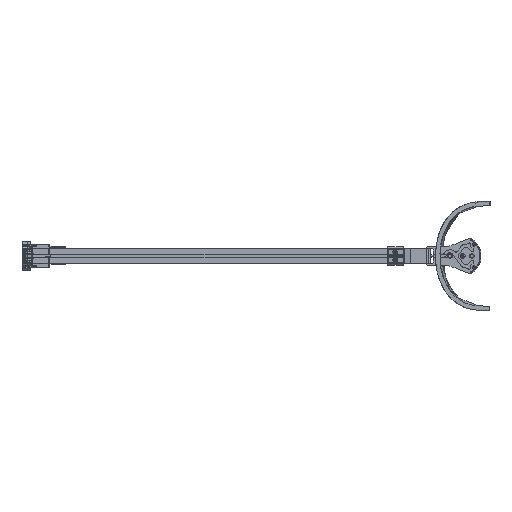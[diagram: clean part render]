
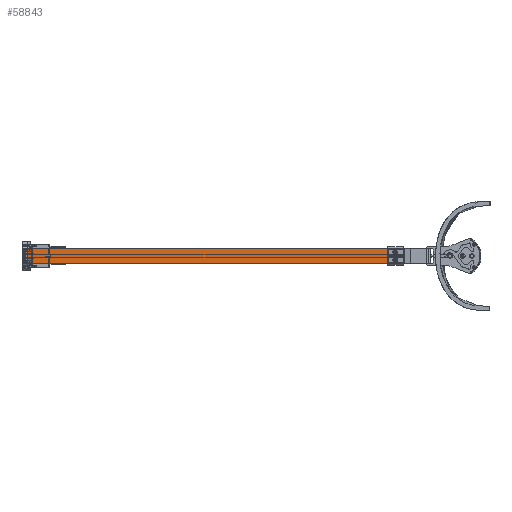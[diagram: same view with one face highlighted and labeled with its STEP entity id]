
A CAD part, left-side view. The second image highlights one B-rep face of the part: STEP entity #58843.
In plain terms, the highlighted planar face has unit normal (-1, 0, 0) as drawn and (0, 0, 1) by its records, which use the part's own axes.
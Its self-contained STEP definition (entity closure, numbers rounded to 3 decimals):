
#2942 = ORIENTED_EDGE ( 'NONE', *, *, #54376, .F. ) ;
#3187 = LINE ( 'NONE', #29965, #53736 ) ;
#3467 = CARTESIAN_POINT ( 'NONE',  ( -14., 688., 0.75 ) ) ;
#5146 = CARTESIAN_POINT ( 'NONE',  ( 14., 0., 0.75 ) ) ;
#9393 = DIRECTION ( 'NONE',  ( -1., 0., 0. ) ) ;
#11719 = LINE ( 'NONE', #38957, #71631 ) ;
#14883 = PLANE ( 'NONE',  #38853 ) ;
#17698 = VECTOR ( 'NONE', #36488, 1000. ) ;
#18995 = CARTESIAN_POINT ( 'NONE',  ( -14., 688., 0.75 ) ) ;
#21947 = CARTESIAN_POINT ( 'NONE',  ( -14., 0., 0.75 ) ) ;
#24864 = EDGE_CURVE ( 'NONE', #66859, #83398, #42756, .T. ) ;
#29965 = CARTESIAN_POINT ( 'NONE',  ( -14., 0., 0.75 ) ) ;
#34991 = EDGE_CURVE ( 'NONE', #72523, #66859, #3187, .T. ) ;
#35440 = FACE_OUTER_BOUND ( 'NONE', #49885, .T. ) ;
#36488 = DIRECTION ( 'NONE',  ( 0., 1., 0. ) ) ;
#38853 = AXIS2_PLACEMENT_3D ( 'NONE', #81817, #63075, #69308 ) ;
#38957 = CARTESIAN_POINT ( 'NONE',  ( 14., 688., 0.75 ) ) ;
#40284 = LINE ( 'NONE', #67483, #82476 ) ;
#42756 = LINE ( 'NONE', #3467, #17698 ) ;
#49885 = EDGE_LOOP ( 'NONE', ( #83786, #2942, #68281, #82387 ) ) ;
#53736 = VECTOR ( 'NONE', #9393, 1000. ) ;
#54376 = EDGE_CURVE ( 'NONE', #83398, #74391, #40284, .T. ) ;
#58843 = ADVANCED_FACE ( 'NONE', ( #35440 ), #14883, .F. ) ;
#59587 = EDGE_CURVE ( 'NONE', #74391, #72523, #11719, .T. ) ;
#63075 = DIRECTION ( 'NONE',  ( 0., 0., -1. ) ) ;
#66182 = DIRECTION ( 'NONE',  ( 0., -1., 0. ) ) ;
#66859 = VERTEX_POINT ( 'NONE', #21947 ) ;
#67483 = CARTESIAN_POINT ( 'NONE',  ( -14., 688., 0.75 ) ) ;
#68281 = ORIENTED_EDGE ( 'NONE', *, *, #24864, .F. ) ;
#69308 = DIRECTION ( 'NONE',  ( -1., 0., 0. ) ) ;
#71631 = VECTOR ( 'NONE', #66182, 1000. ) ;
#72523 = VERTEX_POINT ( 'NONE', #5146 ) ;
#74391 = VERTEX_POINT ( 'NONE', #79269 ) ;
#74613 = DIRECTION ( 'NONE',  ( 1., 0., 0. ) ) ;
#79269 = CARTESIAN_POINT ( 'NONE',  ( 14., 688., 0.75 ) ) ;
#81817 = CARTESIAN_POINT ( 'NONE',  ( -14., 688., 0.75 ) ) ;
#82387 = ORIENTED_EDGE ( 'NONE', *, *, #34991, .F. ) ;
#82476 = VECTOR ( 'NONE', #74613, 1000. ) ;
#83398 = VERTEX_POINT ( 'NONE', #18995 ) ;
#83786 = ORIENTED_EDGE ( 'NONE', *, *, #59587, .F. ) ;
